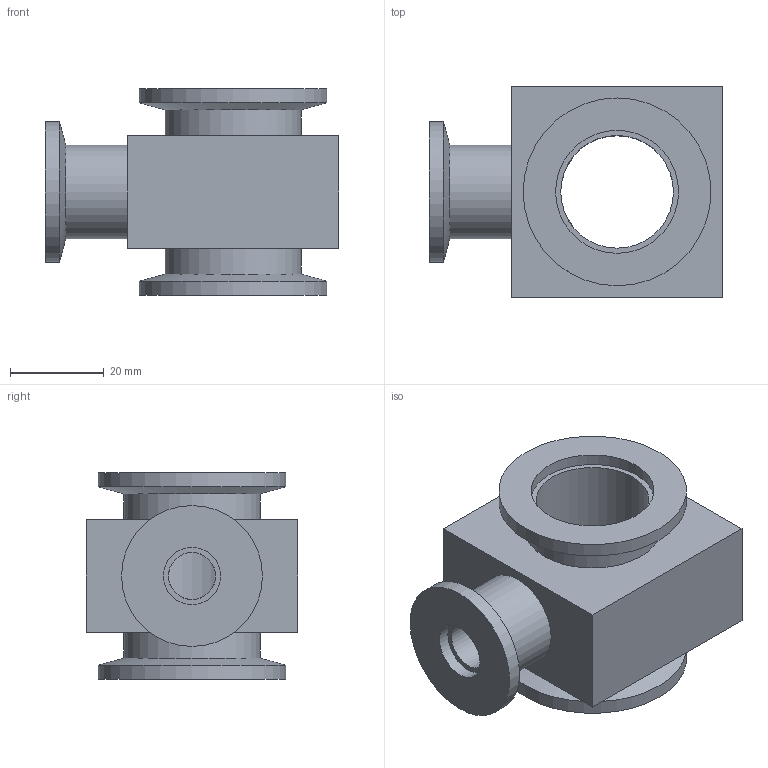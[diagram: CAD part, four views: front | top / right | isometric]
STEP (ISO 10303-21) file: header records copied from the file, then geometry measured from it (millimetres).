
FILE_DESCRIPTION( ( 'Unknown' ), '1' );
FILE_NAME( 'X:/Daten ( aktueller Bestand )/Projekte und Zeichnungen/Solid Edge/1 Kleinflanschverzweigungen/Alu/Reduzier-T-Stück Alu/1052.stp', 'Unknown', ( 'Unknown' ), ( 'Unknown' ), 'XStep 1.0', 'Unknown', ' ' );
FILE_SCHEMA( ( 'automotive_design' ) );
Length unit declared in the file: millimetre
Products named in the file (1): 1
Bounding box: 62.5 x 45 x 44 mm (x, y, z)
Volume: 50485.7 mm3; surface area: 17668.6 mm2
Topology: 1 solids, 1 shells, 26 faces, 52 edges, 33 vertices
Faces by surface type: plane 12, cylinder 11, cone 3
Full cylindrical faces by diameter (mm): 10 x1, 12.2 x1, 20 x1, 24 x1, 26.2 x2, 29 x2, 30 x1, 40 x2
Entity records: 878 total; most frequent: CARTESIAN_POINT 164, DIRECTION 108, ORIENTED_EDGE 68, EDGE_LOOP 50, AXIS2_PLACEMENT_3D 48, FACE_OUTER_BOUND 37, EDGE_CURVE 34, VERTEX_POINT 30
